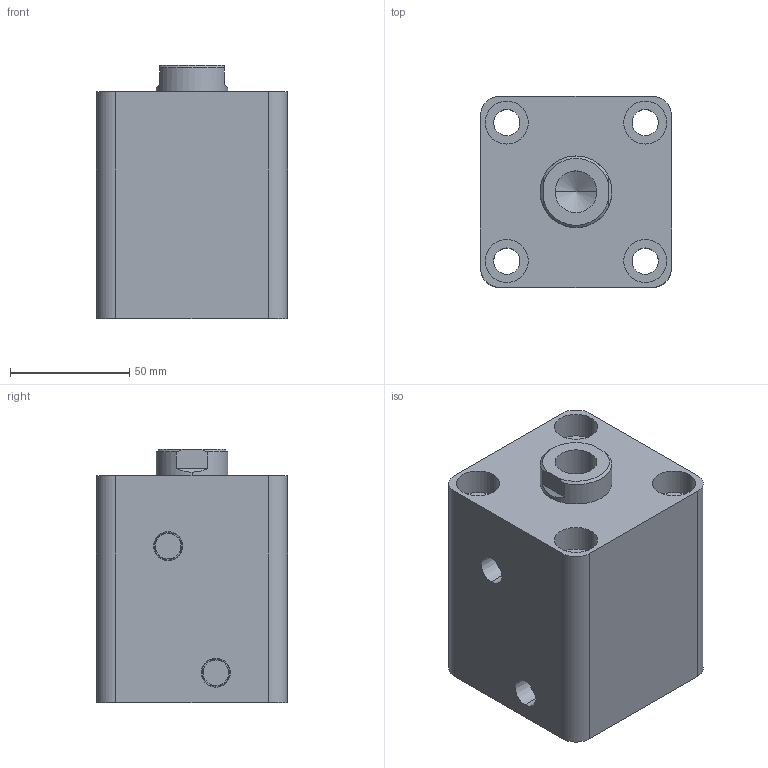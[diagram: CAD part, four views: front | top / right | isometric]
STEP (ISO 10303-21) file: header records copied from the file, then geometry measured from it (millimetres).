
FILE_DESCRIPTION (( 'STEP AP203' ), '1' );
FILE_NAME ('HTB-SD50-35N.STEP', '2019-10-07T07:08:14', ( '微软用户' ), ( '微软中国' ), 'SwSTEP 2.0', 'SolidWorks 2012', '' );
FILE_SCHEMA (( 'CONFIG_CONTROL_DESIGN' ));
Length unit declared in the file: millimetre
Products named in the file (3): HTB-SD50-35N; HTB-SD50-35N活塞杆; HTB-SD50-35掛极
Assembly tree (2 placements, depth 2):
  HTB-SD50-35N
    HTB-SD50-35掛极
    HTB-SD50-35N活塞杆
Bounding box: 80 x 80 x 106 mm (x, y, z)
Volume: 507335 mm3; surface area: 86330.8 mm2
Topology: 2 solids, 2 shells, 83 faces, 184 edges, 119 vertices
Faces by surface type: cylinder 42, plane 27, cone 8, torus 6
Entity records: 2655 total; most frequent: DIRECTION 456, CARTESIAN_POINT 417, ORIENTED_EDGE 364, AXIS2_PLACEMENT_3D 194, EDGE_CURVE 182, VERTEX_POINT 119, EDGE_LOOP 107, CIRCLE 106
